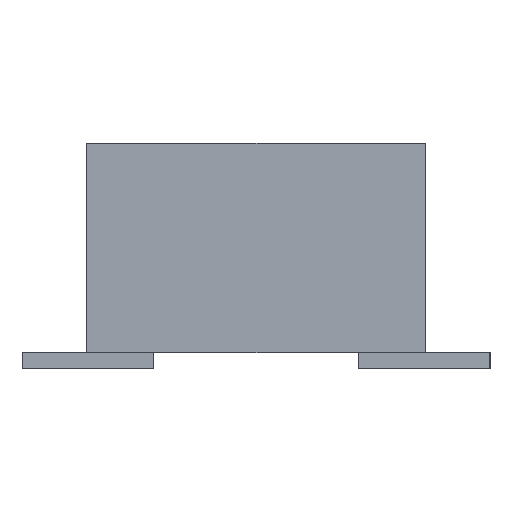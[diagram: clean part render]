
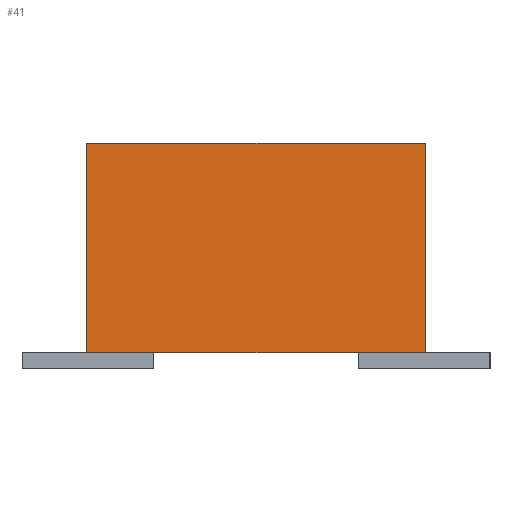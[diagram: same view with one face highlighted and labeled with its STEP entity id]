
A CAD part, left-side view. The second image highlights one B-rep face of the part: STEP entity #41.
In plain terms, the highlighted planar face has unit normal (-1, 0, 0).
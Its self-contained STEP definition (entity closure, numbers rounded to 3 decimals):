
#41=ADVANCED_FACE('',(#1645),#845,.T.);
#845=PLANE('',#15026);
#1645=FACE_OUTER_BOUND('',#6705,.T.);
#2792=LINE('',#20231,#4872);
#2977=LINE('',#20604,#5057);
#2979=LINE('',#20607,#5059);
#3002=LINE('',#20631,#5082);
#4872=VECTOR('',#16183,1.);
#5057=VECTOR('',#16372,1.);
#5059=VECTOR('',#16376,1.);
#5082=VECTOR('',#16401,1.);
#6705=EDGE_LOOP('',(#8096,#8097,#8098,#8099));
#8096=ORIENTED_EDGE('',*,*,#13467,.T.);
#8097=ORIENTED_EDGE('',*,*,#13465,.T.);
#8098=ORIENTED_EDGE('',*,*,#13490,.F.);
#8099=ORIENTED_EDGE('',*,*,#13279,.T.);
#12033=VERTEX_POINT('',#20230);
#12034=VERTEX_POINT('',#20232);
#12217=VERTEX_POINT('',#20599);
#12219=VERTEX_POINT('',#20603);
#13279=EDGE_CURVE('',#12034,#12033,#2792,.T.);
#13465=EDGE_CURVE('',#12217,#12219,#2977,.T.);
#13467=EDGE_CURVE('',#12033,#12217,#2979,.T.);
#13490=EDGE_CURVE('',#12034,#12219,#3002,.T.);
#15026=AXIS2_PLACEMENT_3D('',#20632,#16402,#16403);
#16183=DIRECTION('',(0.,-1.,0.));
#16372=DIRECTION('',(0.,1.,0.));
#16376=DIRECTION('',(0.,0.,1.));
#16401=DIRECTION('',(0.,0.,1.));
#16402=DIRECTION('',(-1.,0.,0.));
#16403=DIRECTION('',(0.,0.,1.));
#20230=CARTESIAN_POINT('',(0.,0.,0.));
#20231=CARTESIAN_POINT('',(0.,2.1,0.));
#20232=CARTESIAN_POINT('',(0.,4.2,0.));
#20599=CARTESIAN_POINT('',(0.,0.,2.6));
#20603=CARTESIAN_POINT('',(0.,4.2,2.6));
#20604=CARTESIAN_POINT('',(0.,2.1,2.6));
#20607=CARTESIAN_POINT('',(0.,0.,0.));
#20631=CARTESIAN_POINT('',(0.,4.2,0.));
#20632=CARTESIAN_POINT('',(0.,2.1,0.));
